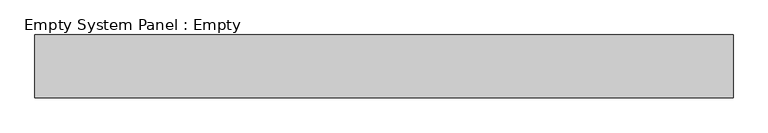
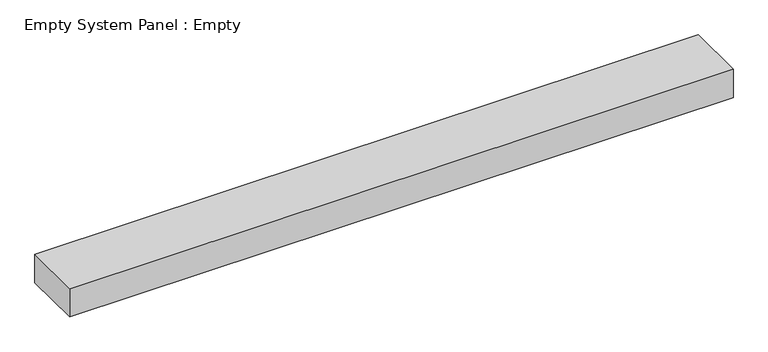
"""IFC4 building model written with IfcOpenShell, lengths in millimetres: plate geometry, Empty System Panel : Empty."""

from ifc_helpers import new_model, si_unit, origin, origin_with_axes, place, context, project, spatial, polyline, outline, extrude, source, transform, mapped, element, save


def empty_system_panel_empty_0ae384b7(model_context):
    return source(origin(), model_context, "Body", "SweptSolid", [
        extrude(outline(polyline([(553.5714286, -50.0), (-553.5714286, -50.0), (-553.5714286, 50.0), (553.5714286, 50.0), (553.5714286, -50.0)])), origin_with_axes(), (0.0, 0.0, 1.0), 50.0),
    ])


if __name__ == "__main__":
    model = new_model("IFC4")
    model_context = context("Model", 3, world=origin())
    ifc_project = project(units=[si_unit("LENGTHUNIT", "METRE", prefix="MILLI")], contexts=[model_context])
    site = spatial("IfcSite", under=ifc_project)
    building = spatial("IfcBuilding", under=site)
    placement = place(None, origin())
    empty_system_panel_empty_shape = empty_system_panel_empty_0ae384b7(model_context)
    element("IfcPlate", 1, ObjectType="Empty System Panel : Empty", at=placement, inside=building, context=model_context, shape_type="MappedRepresentation", body=[
        mapped(empty_system_panel_empty_shape, transform((0.0, 0.0, 0.0), x_axis=(1.0, 0.0, 0.0), y_axis=(0.0, 1.0, 0.0), z_axis=(0.0, 0.0, 1.0))),
    ])
    save(model, "model.ifc")
